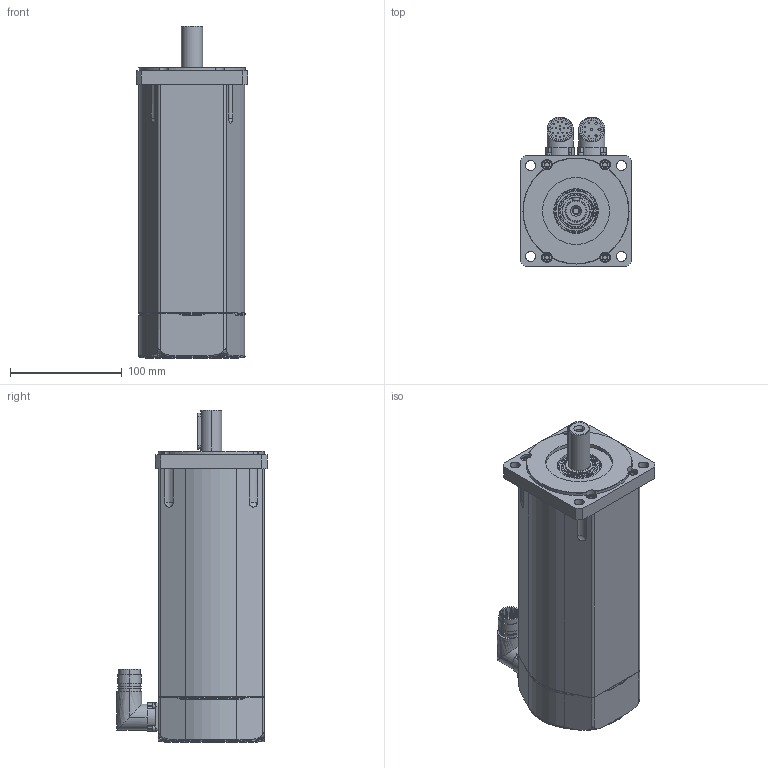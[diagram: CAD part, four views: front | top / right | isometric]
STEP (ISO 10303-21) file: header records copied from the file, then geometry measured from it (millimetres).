
FILE_DESCRIPTION (( 'STEP AP203' ), '1' );
FILE_NAME ('SSAX100L_SF.STEP', '2015-09-10T14:32:28', ( 'Tecnico motori' ), ( '' ), 'SwSTEP 2.0', 'SolidWorks 2010', '' );
FILE_SCHEMA (( 'CONFIG_CONTROL_DESIGN' ));
Length unit declared in the file: millimetre
Products named in the file (1): SSAX100L_SF
Bounding box: 100 x 134.5 x 297.5 mm (x, y, z)
Surface area: 131070.8 mm2 (no closed solid volume)
Topology: 0 solids, 35 shells, 468 faces, 1311 edges, 908 vertices
Faces by surface type: cylinder 202, plane 189, cone 41, torus 30, bspline 6
Entity records: 16708 total; most frequent: CARTESIAN_POINT 4319, DIRECTION 2744, ORIENTED_EDGE 2273, EDGE_CURVE 1311, AXIS2_PLACEMENT_3D 1085, VERTEX_POINT 908, CIRCLE 622, VECTOR 574
